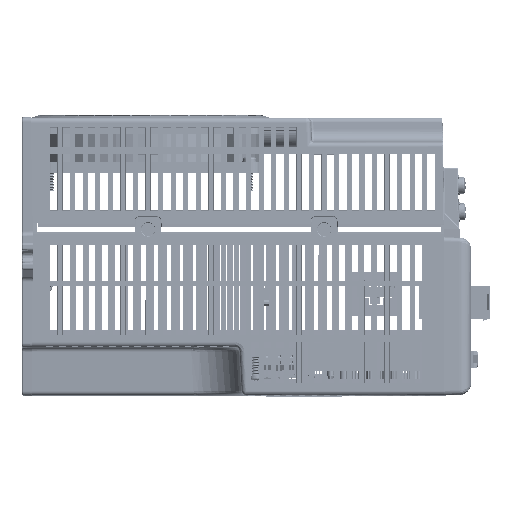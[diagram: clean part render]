
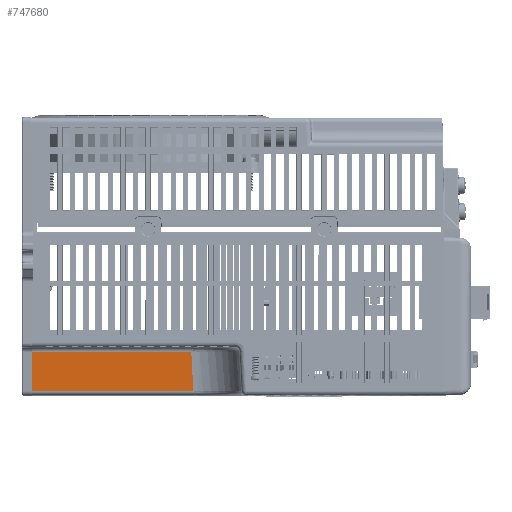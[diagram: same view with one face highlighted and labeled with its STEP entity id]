
A CAD part, left-side view. The second image highlights one B-rep face of the part: STEP entity #747680.
In plain terms, the highlighted planar face has unit normal (-0.999, 0, -0.052) as drawn and (0.999, 0, 0.052) by its records, which use the part's own axes.
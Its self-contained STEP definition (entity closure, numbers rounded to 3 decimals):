
#9956 = LINE ( 'NONE', #334223, #194319 ) ;
#36732 = EDGE_CURVE ( 'NONE', #79537, #537389, #566868, .T. ) ;
#43277 = ORIENTED_EDGE ( 'NONE', *, *, #457233, .F. ) ;
#74072 = ORIENTED_EDGE ( 'NONE', *, *, #36732, .F. ) ;
#79537 = VERTEX_POINT ( 'NONE', #225102 ) ;
#83709 = CARTESIAN_POINT ( 'NONE',  ( 25.889, 23.5, 29.078 ) ) ;
#92697 = VECTOR ( 'NONE', #251871, 1000. ) ;
#118288 = AXIS2_PLACEMENT_3D ( 'NONE', #281878, #587715, #460754 ) ;
#122963 = DIRECTION ( 'NONE',  ( 0., -1., 0. ) ) ;
#135108 = VECTOR ( 'NONE', #400680, 1000. ) ;
#147437 = DIRECTION ( 'NONE',  ( -0.052, 0.009, 0.999 ) ) ;
#154572 = PLANE ( 'NONE',  #118288 ) ;
#164022 = ORIENTED_EDGE ( 'NONE', *, *, #538157, .T. ) ;
#194212 = FACE_OUTER_BOUND ( 'NONE', #795874, .T. ) ;
#194319 = VECTOR ( 'NONE', #147437, 1000. ) ;
#225102 = CARTESIAN_POINT ( 'NONE',  ( 25.889, 89.411, 29.078 ) ) ;
#240749 = LINE ( 'NONE', #83709, #135108 ) ;
#251871 = DIRECTION ( 'NONE',  ( 0., 1., 0. ) ) ;
#281878 = CARTESIAN_POINT ( 'NONE',  ( 25.039, 89.954, 45.287 ) ) ;
#306755 = ORIENTED_EDGE ( 'NONE', *, *, #483384, .F. ) ;
#334223 = CARTESIAN_POINT ( 'NONE',  ( 25.889, 89.411, 29.078 ) ) ;
#400680 = DIRECTION ( 'NONE',  ( -0.052, -0.052, 0.997 ) ) ;
#419889 = CARTESIAN_POINT ( 'NONE',  ( 25.889, 23.5, 29.078 ) ) ;
#432000 = CARTESIAN_POINT ( 'NONE',  ( 25.889, 89.954, 29.078 ) ) ;
#457233 = EDGE_CURVE ( 'NONE', #537389, #685197, #240749, .T. ) ;
#460754 = DIRECTION ( 'NONE',  ( -0.052, 0., 0.999 ) ) ;
#467584 = VERTEX_POINT ( 'NONE', #621837 ) ;
#483384 = EDGE_CURVE ( 'NONE', #685197, #467584, #751867, .T. ) ;
#537389 = VERTEX_POINT ( 'NONE', #419889 ) ;
#538157 = EDGE_CURVE ( 'NONE', #79537, #467584, #9956, .T. ) ;
#565885 = CARTESIAN_POINT ( 'NONE',  ( 25.039, 22.651, 45.287 ) ) ;
#566868 = LINE ( 'NONE', #432000, #605725 ) ;
#587715 = DIRECTION ( 'NONE',  ( -0.999, 0., -0.052 ) ) ;
#605725 = VECTOR ( 'NONE', #122963, 1000. ) ;
#621837 = CARTESIAN_POINT ( 'NONE',  ( 25.039, 89.552, 45.287 ) ) ;
#634283 = CARTESIAN_POINT ( 'NONE',  ( 25.039, 22.651, 45.287 ) ) ;
#685197 = VERTEX_POINT ( 'NONE', #634283 ) ;
#747680 = ADVANCED_FACE ( 'NONE', ( #194212 ), #154572, .F. ) ;
#751867 = LINE ( 'NONE', #565885, #92697 ) ;
#795874 = EDGE_LOOP ( 'NONE', ( #306755, #43277, #74072, #164022 ) ) ;
